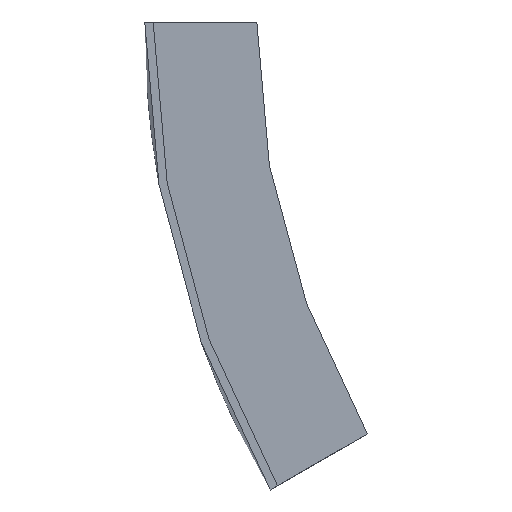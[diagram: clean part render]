
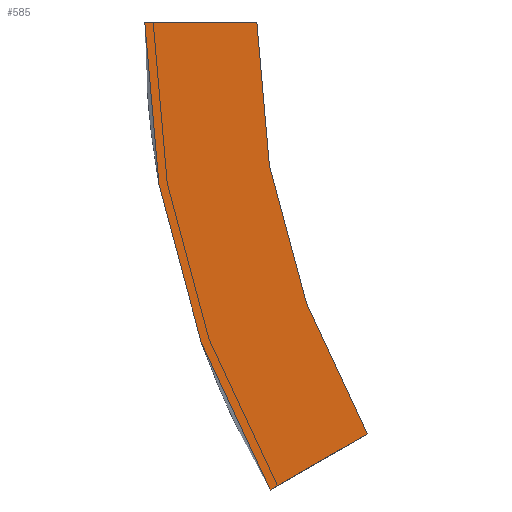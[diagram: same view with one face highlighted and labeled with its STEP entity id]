
A CAD part, left-side view. The second image highlights one B-rep face of the part: STEP entity #585.
In plain terms, the highlighted planar face has unit normal (-1, 0, 0).
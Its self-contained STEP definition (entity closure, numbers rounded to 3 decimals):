
#8 = CARTESIAN_POINT ( 'NONE',  ( -253.5, -22.374, -83.5 ) ) ;
#9 = VECTOR ( 'NONE', #432, 1000. ) ;
#22 = AXIS2_PLACEMENT_3D ( 'NONE', #73, #447, #31 ) ;
#31 = DIRECTION ( 'NONE',  ( 0., 0., -1. ) ) ;
#36 = DIRECTION ( 'NONE',  ( 0., 0., 1. ) ) ;
#45 = EDGE_CURVE ( 'NONE', #77, #141, #598, .T. ) ;
#60 = CARTESIAN_POINT ( 'NONE',  ( -253.5, -20., 0. ) ) ;
#71 = DIRECTION ( 'NONE',  ( 0., 0.866, -0.5 ) ) ;
#73 = CARTESIAN_POINT ( 'NONE',  ( -253.5, -167., 0. ) ) ;
#77 = VERTEX_POINT ( 'NONE', #8 ) ;
#84 = PLANE ( 'NONE',  #504 ) ;
#88 = EDGE_CURVE ( 'NONE', #141, #470, #345, .T. ) ;
#118 = EDGE_CURVE ( 'NONE', #481, #77, #306, .T. ) ;
#134 = FACE_OUTER_BOUND ( 'NONE', #513, .T. ) ;
#141 = VERTEX_POINT ( 'NONE', #599 ) ;
#194 = CARTESIAN_POINT ( 'NONE',  ( -253.5, -39.694, -73.5 ) ) ;
#219 = CARTESIAN_POINT ( 'NONE',  ( -253.5, -39.694, -73.5 ) ) ;
#229 = ORIENTED_EDGE ( 'NONE', *, *, #45, .F. ) ;
#251 = CARTESIAN_POINT ( 'NONE',  ( -253.5, -167., 0. ) ) ;
#278 = ORIENTED_EDGE ( 'NONE', *, *, #118, .F. ) ;
#306 = LINE ( 'NONE', #219, #471 ) ;
#327 = AXIS2_PLACEMENT_3D ( 'NONE', #251, #341, #526 ) ;
#341 = DIRECTION ( 'NONE',  ( 1., 0., 0. ) ) ;
#345 = LINE ( 'NONE', #60, #9 ) ;
#357 = DIRECTION ( 'NONE',  ( -1., 0., 0. ) ) ;
#386 = EDGE_CURVE ( 'NONE', #470, #481, #393, .T. ) ;
#393 = CIRCLE ( 'NONE', #22, 147. ) ;
#414 = ORIENTED_EDGE ( 'NONE', *, *, #88, .F. ) ;
#428 = CARTESIAN_POINT ( 'NONE',  ( -253.5, -20., 0. ) ) ;
#432 = DIRECTION ( 'NONE',  ( 0., -1., 0. ) ) ;
#447 = DIRECTION ( 'NONE',  ( -1., 0., 0. ) ) ;
#448 = ORIENTED_EDGE ( 'NONE', *, *, #386, .F. ) ;
#470 = VERTEX_POINT ( 'NONE', #428 ) ;
#471 = VECTOR ( 'NONE', #71, 1000. ) ;
#481 = VERTEX_POINT ( 'NONE', #194 ) ;
#504 = AXIS2_PLACEMENT_3D ( 'NONE', #515, #357, #36 ) ;
#513 = EDGE_LOOP ( 'NONE', ( #229, #278, #448, #414 ) ) ;
#515 = CARTESIAN_POINT ( 'NONE',  ( -253.5, -167., 0. ) ) ;
#526 = DIRECTION ( 'NONE',  ( 0., 0., 1. ) ) ;
#585 = ADVANCED_FACE ( 'NONE', ( #134 ), #84, .T. ) ;
#598 = CIRCLE ( 'NONE', #327, 167. ) ;
#599 = CARTESIAN_POINT ( 'NONE',  ( -253.5, 0., 0. ) ) ;
